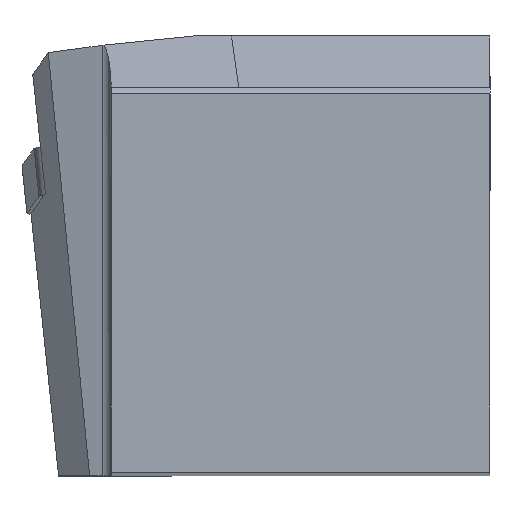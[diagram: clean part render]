
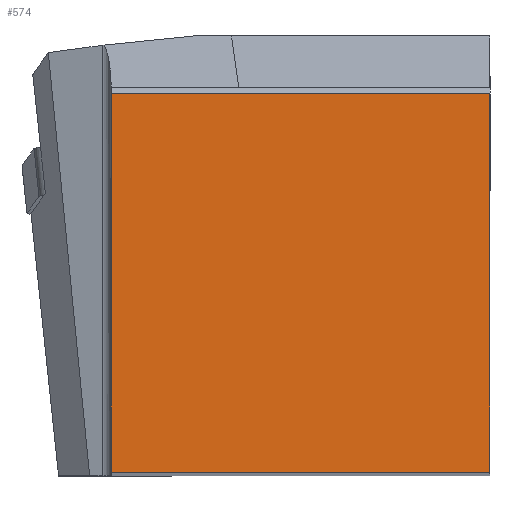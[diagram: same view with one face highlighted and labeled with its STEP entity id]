
A CAD part, top view. The second image highlights one B-rep face of the part: STEP entity #574.
In plain terms, the highlighted planar face has unit normal (0, 0, 1).
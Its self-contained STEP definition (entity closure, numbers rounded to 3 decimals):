
#561=AXIS2_PLACEMENT_3D('Plane Axis2P3D',#558,#559,#560) ;
#253=CARTESIAN_POINT('Vertex',(-25.,0.,0.)) ;
#256=CARTESIAN_POINT('Line Origine',(-25.,12.5,0.)) ;
#260=CARTESIAN_POINT('Vertex',(-25.,25.,0.)) ;
#320=CARTESIAN_POINT('Vertex',(0.,25.,0.)) ;
#323=CARTESIAN_POINT('Line Origine',(0.,12.5,0.)) ;
#327=CARTESIAN_POINT('Vertex',(0.,0.,0.)) ;
#535=CARTESIAN_POINT('Line Origine',(-12.5,0.,0.)) ;
#558=CARTESIAN_POINT('Axis2P3D Location',(-32.,25.,0.)) ;
#563=CARTESIAN_POINT('Line Origine',(-12.5,25.,0.)) ;
#257=DIRECTION('Vector Direction',(0.,-1.,0.)) ;
#324=DIRECTION('Vector Direction',(0.,-1.,0.)) ;
#536=DIRECTION('Vector Direction',(1.,0.,0.)) ;
#559=DIRECTION('Axis2P3D Direction',(0.,0.,-1.)) ;
#560=DIRECTION('Axis2P3D XDirection',(1.,0.,0.)) ;
#564=DIRECTION('Vector Direction',(1.,0.,0.)) ;
#258=VECTOR('Line Direction',#257,1.) ;
#325=VECTOR('Line Direction',#324,1.) ;
#537=VECTOR('Line Direction',#536,1.) ;
#565=VECTOR('Line Direction',#564,1.) ;
#569=ORIENTED_EDGE('',*,*,#539,.T.) ;
#570=ORIENTED_EDGE('',*,*,#329,.F.) ;
#571=ORIENTED_EDGE('',*,*,#567,.F.) ;
#572=ORIENTED_EDGE('',*,*,#262,.T.) ;
#574=ADVANCED_FACE('NOCUT',(#573),#562,.F.) ;
#262=EDGE_CURVE('',#261,#254,#259,.T.) ;
#329=EDGE_CURVE('',#321,#328,#326,.T.) ;
#539=EDGE_CURVE('',#254,#328,#538,.T.) ;
#567=EDGE_CURVE('',#261,#321,#566,.T.) ;
#568=EDGE_LOOP('',(#569,#570,#571,#572)) ;
#573=FACE_OUTER_BOUND('',#568,.T.) ;
#259=LINE('Line',#256,#258) ;
#326=LINE('Line',#323,#325) ;
#538=LINE('Line',#535,#537) ;
#566=LINE('Line',#563,#565) ;
#562=PLANE('',#561) ;
#254=VERTEX_POINT('',#253) ;
#261=VERTEX_POINT('',#260) ;
#321=VERTEX_POINT('',#320) ;
#328=VERTEX_POINT('',#327) ;
